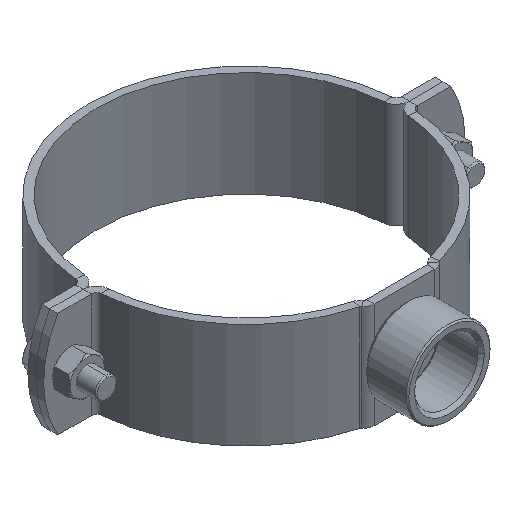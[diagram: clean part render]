
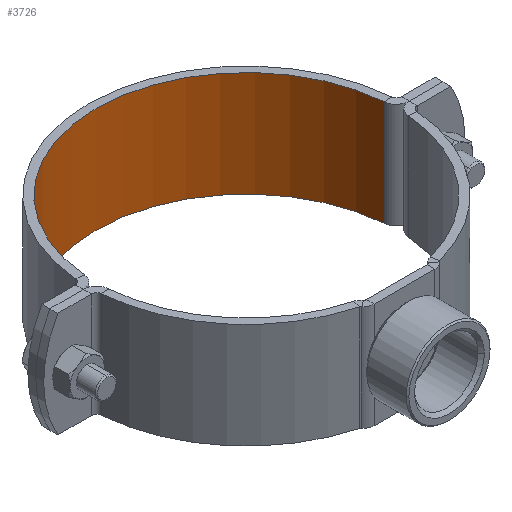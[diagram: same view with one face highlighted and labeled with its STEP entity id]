
A CAD part, isometric view. The second image highlights one B-rep face of the part: STEP entity #3726.
In plain terms, the highlighted cylindrical face has radius 57.1 mm (diameter 114.2 mm), a partial arc.
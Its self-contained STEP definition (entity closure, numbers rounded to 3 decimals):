
#210 = ORIENTED_EDGE ( 'NONE', *, *, #1339, .F. ) ;
#434 = CARTESIAN_POINT ( 'NONE',  ( 56.915, -4.597, -20. ) ) ;
#584 = VERTEX_POINT ( 'NONE', #1543 ) ;
#656 = ORIENTED_EDGE ( 'NONE', *, *, #3684, .F. ) ;
#753 = VERTEX_POINT ( 'NONE', #434 ) ;
#1048 = DIRECTION ( 'NONE',  ( 0., 0., -1. ) ) ;
#1205 = VERTEX_POINT ( 'NONE', #4177 ) ;
#1339 = EDGE_CURVE ( 'NONE', #1205, #584, #4710, .T. ) ;
#1350 = CARTESIAN_POINT ( 'NONE',  ( 0., 0., 20. ) ) ;
#1402 = CARTESIAN_POINT ( 'NONE',  ( -56.915, -4.597, 20. ) ) ;
#1543 = CARTESIAN_POINT ( 'NONE',  ( -56.915, -4.597, -20. ) ) ;
#1644 = CARTESIAN_POINT ( 'NONE',  ( 0., 0., -20. ) ) ;
#1660 = CARTESIAN_POINT ( 'NONE',  ( 0., 0., 20. ) ) ;
#2373 = EDGE_LOOP ( 'NONE', ( #656, #210, #3566, #3201 ) ) ;
#2597 = EDGE_CURVE ( 'NONE', #1205, #3932, #4062, .T. ) ;
#2709 = DIRECTION ( 'NONE',  ( 0., 0., -1. ) ) ;
#2767 = DIRECTION ( 'NONE',  ( 0., 0., -1. ) ) ;
#2776 = EDGE_CURVE ( 'NONE', #3932, #753, #2792, .T. ) ;
#2792 = LINE ( 'NONE', #4358, #3837 ) ;
#3018 = DIRECTION ( 'NONE',  ( 0., 0., 1. ) ) ;
#3042 = CIRCLE ( 'NONE', #4475, 57.1 ) ;
#3043 = DIRECTION ( 'NONE',  ( 0., 0., 1. ) ) ;
#3045 = FACE_OUTER_BOUND ( 'NONE', #2373, .T. ) ;
#3201 = ORIENTED_EDGE ( 'NONE', *, *, #2776, .T. ) ;
#3566 = ORIENTED_EDGE ( 'NONE', *, *, #2597, .T. ) ;
#3615 = CARTESIAN_POINT ( 'NONE',  ( 56.915, -4.597, 20. ) ) ;
#3684 = EDGE_CURVE ( 'NONE', #584, #753, #3042, .T. ) ;
#3726 = ADVANCED_FACE ( 'NONE', ( #3045 ), #4646, .F. ) ;
#3837 = VECTOR ( 'NONE', #1048, 1000. ) ;
#3922 = VECTOR ( 'NONE', #2767, 1000. ) ;
#3932 = VERTEX_POINT ( 'NONE', #3615 ) ;
#4057 = AXIS2_PLACEMENT_3D ( 'NONE', #1660, #3043, #4644 ) ;
#4062 = CIRCLE ( 'NONE', #4057, 57.1 ) ;
#4177 = CARTESIAN_POINT ( 'NONE',  ( -56.915, -4.597, 20. ) ) ;
#4264 = DIRECTION ( 'NONE',  ( -1., 0., 0. ) ) ;
#4358 = CARTESIAN_POINT ( 'NONE',  ( 56.915, -4.597, 20. ) ) ;
#4475 = AXIS2_PLACEMENT_3D ( 'NONE', #1644, #3018, #4624 ) ;
#4624 = DIRECTION ( 'NONE',  ( 1., 0., 0. ) ) ;
#4644 = DIRECTION ( 'NONE',  ( 1., 0., 0. ) ) ;
#4646 = CYLINDRICAL_SURFACE ( 'NONE', #4799, 57.1 ) ;
#4710 = LINE ( 'NONE', #1402, #3922 ) ;
#4799 = AXIS2_PLACEMENT_3D ( 'NONE', #1350, #2709, #4264 ) ;
